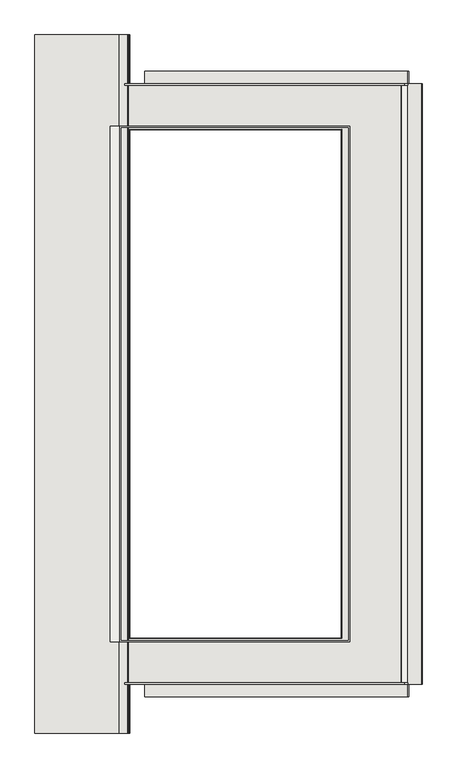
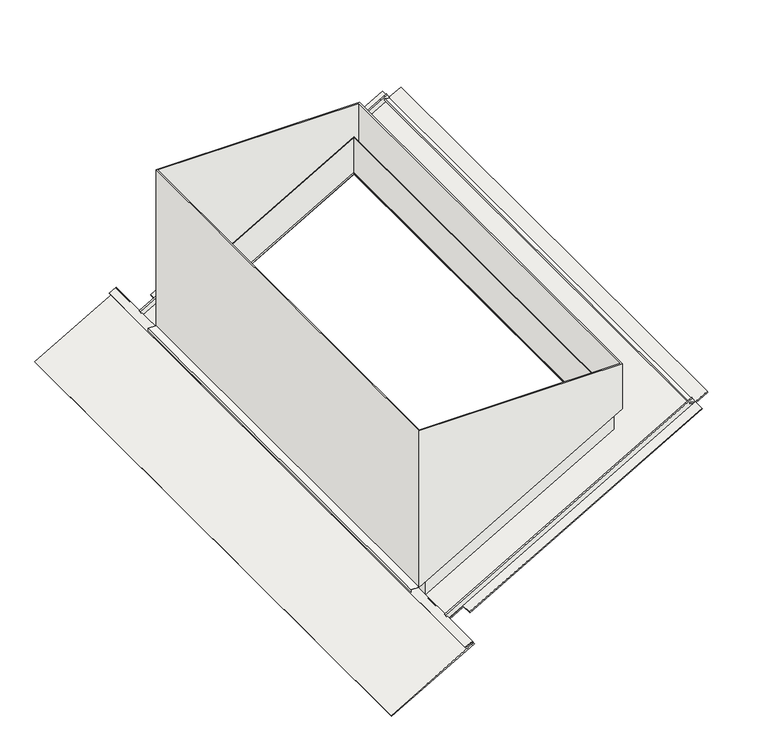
"""IFC4 building model written with IfcOpenShell, lengths in millimetres: covering geometry, MG_BPC_Delta Discovery Air_mountingbox-PA_M&G : mountingbox DDA-XL."""

from ifc_helpers import new_model, si_unit, frame, origin, place, context, project, spatial, polyline, outline, extrude, faceted_brep, source, transform, mapped, element, save


def covering_2f231527(model_context):
    return source(origin(), model_context, "Body", "SolidModel", [
        extrude(outline(polyline([(0.0, 0.0), (0.0, -350.0), (-157.5, -350.0), (-157.5, -410.0), (-117.5, -410.0), (-117.5, -1390.9698687), (-157.5, -1390.9698687), (-157.5, -1440.9698687), (-2097.5, -1440.9698687), (-2097.5, -1390.9698687), (-2137.5, -1390.9698687), (-2137.5, -410.0), (-2097.5, -410.0), (-2097.5, -350.0), (-2255.0, -350.0), (-2255.0, 0.0), (0.0, 0.0)]), holes=[polyline([(-1947.5, -350.0), (-1947.5, -1140.9698688), (-307.5, -1140.9698688), (-307.5, -350.0), (-1947.5, -350.0)])]), frame((-303.1088913, 1127.5, -175.0), z_axis=(-0.4999999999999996, 0.0, 0.8660254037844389), x_axis=(0.0, 1.0, 0.0)), (0.0, 0.0, 1.0), 5.0),
        faceted_brep([(0.0, 820.0, 140.8734657), (0.0, 820.0, 0.0), (684.0, 820.0, 394.9075841), (684.0, 820.0, 535.7810498), (0.0, -820.0, 140.8734657), (0.0, -820.0, 0.0), (684.0, -820.0, 535.7810498), (684.0, -820.0, 394.9075841), (685.9866683, 822.0, 536.9280533), (685.9866683, 822.0, 396.0545876), (-2.0066659, 822.0, -1.1585491), (-2.0066659, 822.0, 139.7149166), (-2.0066659, -822.0, -1.1585491), (-2.0066659, -822.0, 139.7149166), (685.9866683, -822.0, 396.0545876), (685.9866683, -822.0, 536.9280533)], [[[0, 1, 2, 3]], [[1, 0, 4, 5]], [[5, 4, 6, 7]], [[7, 6, 3, 2]], [[8, 9, 10, 11]], [[11, 10, 12, 13]], [[13, 12, 14, 15]], [[9, 8, 15, 14]], [[10, 9, 14, 12], [2, 1, 5, 7]], [[8, 11, 13, 15], [0, 3, 6, 4]]]),
        faceted_brep([(710.9866683, -833.0, 654.7703766), (710.9866683, -833.0, 479.7703766), (710.9866683, 833.0, 479.7703766), (710.9866683, 833.0, 654.7703766), (-32.0066659, 833.0, 50.8029751), (-32.0066659, 833.0, 654.7703766), (-32.0066659, -833.0, 50.8029751), (-32.0066659, -833.0, 654.7703766), (-27.0066659, -828.0, 654.7703766), (-27.0066659, -828.0, 53.6897265), (-27.0066659, 828.0, 53.6897265), (-27.0066659, 828.0, 654.7703766), (705.9866683, 828.0, 476.8836253), (705.9866683, 828.0, 654.7703766), (705.9866683, -828.0, 476.8836253), (705.9866683, -828.0, 654.7703766)], [[[0, 1, 2, 3]], [[3, 2, 4, 5]], [[5, 4, 6, 7]], [[1, 0, 7, 6]], [[8, 9, 10, 11]], [[11, 10, 12, 13]], [[13, 12, 14, 15]], [[9, 8, 15, 14]], [[2, 1, 6, 4], [10, 9, 14, 12]], [[0, 3, 5, 7], [8, 11, 13, 15]]]),
        extrude(outline(polyline([(12.9903811, -7.5), (-2.0096189, -33.4807621), (-4.6076952, -31.9807621), (8.8923048, -8.5980762), (2.830127, -5.0980762), (4.330127, -2.5), (12.9903811, -7.5)])), frame((0.0, -1127.5, 0.0), z_axis=(0.0, 1.0, 0.0), x_axis=(0.0, 0.0, 1.0)), (0.0, 0.0, 1.0), 2255.0),
        extrude(outline(polyline([(51.8029751, -62.0066659), (41.8029751, -62.0066659), (41.8029751, -61.0066659), (50.8029751, -61.0066659), (50.8029751, -32.0066659), (51.8029751, -32.0066659), (51.8029751, -62.0066659)])), frame((0.0, -833.0, 0.0), z_axis=(0.0, 1.0, 0.0), x_axis=(0.0, 0.0, 1.0)), (0.0, 0.0, 1.0), 1666.0),
        extrude(outline(polyline([(0.0, -20.0), (0.0, 0.0), (1940.0, 0.0), (1940.0, -20.0), (0.0, -20.0)])), frame((878.3937392, -970.0, 525.1618132), z_axis=(0.25881904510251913, 0.0, 0.9659258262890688), x_axis=(0.0, 1.0, 0.0)), (0.0, 0.0, 1.0), 5.0),
        extrude(outline(polyline([(0.0, -5.0), (0.0, 0.0), (1043.9698687, 0.0), (1043.9698687, -5.0), (0.0, -5.0)])), frame((899.0063509, 965.0, 524.8150614), z_axis=(-0.4999999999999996, 0.0, 0.8660254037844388), x_axis=(-0.8660254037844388, 0.0, -0.4999999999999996)), (0.0, 0.0, 1.0), 20.0),
        extrude(outline(polyline([(0.0, -5.0), (0.0, 0.0), (1043.9698687, 0.0), (1043.9698687, -5.0), (0.0, -5.0)])), frame((-5.0980762, -965.0, 2.830127), z_axis=(-0.49999999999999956, 0.0, 0.8660254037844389), x_axis=(0.8660254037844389, 0.0, 0.49999999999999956)), (0.0, 0.0, 1.0), 20.0),
    ])


if __name__ == "__main__":
    model = new_model("IFC4")
    model_context = context("Model", 3, world=origin())
    ifc_project = project(units=[si_unit("LENGTHUNIT", "METRE", prefix="MILLI")], contexts=[model_context])
    site = spatial("IfcSite", under=ifc_project)
    building = spatial("IfcBuilding", under=site)
    placement = place(None, origin())
    covering_shape = covering_2f231527(model_context)
    element("IfcCovering", 1, ObjectType="MG_BPC_Delta Discovery Air_mountingbox-PA_M&G : mountingbox DDA-XL", at=placement, inside=building, context=model_context, shape_type="MappedRepresentation", body=[
        mapped(covering_shape, transform((0.0, 0.0, 0.0), x_axis=(1.0, 0.0, 0.0), y_axis=(0.0, 1.0, 0.0), z_axis=(0.0, 0.0, 1.0))),
    ])
    save(model, "model.ifc")
